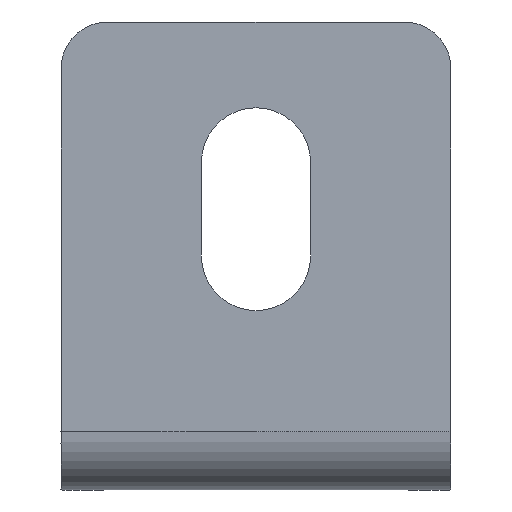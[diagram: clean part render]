
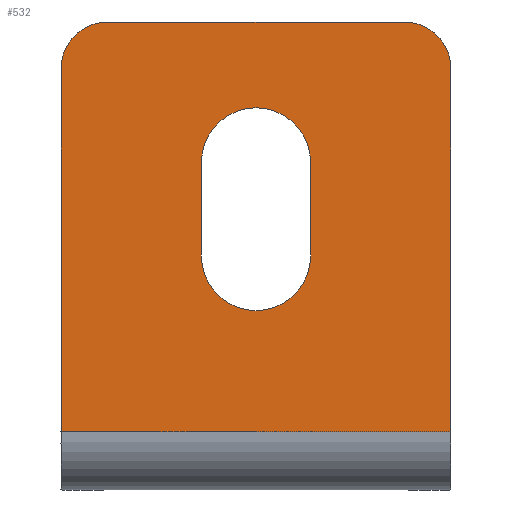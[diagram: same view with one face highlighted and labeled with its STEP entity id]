
A CAD part, front view. The second image highlights one B-rep face of the part: STEP entity #532.
In plain terms, the highlighted planar face has unit normal (0, -1, 0).
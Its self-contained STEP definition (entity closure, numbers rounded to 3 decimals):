
#21 = AXIS2_PLACEMENT_3D ( 'NONE', #605, #606, #607 ) ;
#24 = AXIS2_PLACEMENT_3D ( 'NONE', #621, #622, #623 ) ;
#33 = AXIS2_PLACEMENT_3D ( 'NONE', #689, #690, #691 ) ;
#34 = AXIS2_PLACEMENT_3D ( 'NONE', #694, #695, #696 ) ;
#35 = AXIS2_PLACEMENT_3D ( 'NONE', #699, #700, #701 ) ;
#36 = AXIS2_PLACEMENT_3D ( 'NONE', #704, #705, #706 ) ;
#85 = LINE ( 'NONE', #683, #88 ) ;
#88 = VECTOR ( 'NONE', #684, 1000. ) ;
#89 = CIRCLE ( 'NONE', #33, 3.5 ) ;
#91 = LINE ( 'NONE', #676, #93 ) ;
#92 = CIRCLE ( 'NONE', #34, 3.5 ) ;
#93 = VECTOR ( 'NONE', #677, 1000. ) ;
#94 = LINE ( 'NONE', #687, #96 ) ;
#95 = CIRCLE ( 'NONE', #35, 3. ) ;
#96 = VECTOR ( 'NONE', #688, 1000. ) ;
#97 = LINE ( 'NONE', #692, #99 ) ;
#98 = LINE ( 'NONE', #702, #101 ) ;
#99 = VECTOR ( 'NONE', #693, 1000. ) ;
#100 = CIRCLE ( 'NONE', #36, 3. ) ;
#101 = VECTOR ( 'NONE', #703, 1000. ) ;
#193 = EDGE_LOOP ( 'NONE', ( #293, #294, #295, #296, #297 ) ) ;
#219 = EDGE_LOOP ( 'NONE', ( #298, #299, #300, #301, #302, #303 ) ) ;
#227 = VERTEX_POINT ( 'NONE', #412 ) ;
#233 = VERTEX_POINT ( 'NONE', #398 ) ;
#234 = VERTEX_POINT ( 'NONE', #444 ) ;
#235 = VERTEX_POINT ( 'NONE', #408 ) ;
#237 = VERTEX_POINT ( 'NONE', #430 ) ;
#238 = VERTEX_POINT ( 'NONE', #470 ) ;
#240 = VERTEX_POINT ( 'NONE', #472 ) ;
#245 = VERTEX_POINT ( 'NONE', #477 ) ;
#250 = VERTEX_POINT ( 'NONE', #482 ) ;
#254 = VERTEX_POINT ( 'NONE', #486 ) ;
#258 = VERTEX_POINT ( 'NONE', #490 ) ;
#293 = ORIENTED_EDGE ( 'NONE', *, *, #828, .T. ) ;
#294 = ORIENTED_EDGE ( 'NONE', *, *, #799, .T. ) ;
#295 = ORIENTED_EDGE ( 'NONE', *, *, #829, .T. ) ;
#296 = ORIENTED_EDGE ( 'NONE', *, *, #830, .T. ) ;
#297 = ORIENTED_EDGE ( 'NONE', *, *, #831, .T. ) ;
#298 = ORIENTED_EDGE ( 'NONE', *, *, #826, .T. ) ;
#299 = ORIENTED_EDGE ( 'NONE', *, *, #832, .T. ) ;
#300 = ORIENTED_EDGE ( 'NONE', *, *, #833, .F. ) ;
#301 = ORIENTED_EDGE ( 'NONE', *, *, #834, .F. ) ;
#302 = ORIENTED_EDGE ( 'NONE', *, *, #808, .T. ) ;
#303 = ORIENTED_EDGE ( 'NONE', *, *, #835, .T. ) ;
#398 = CARTESIAN_POINT ( 'NONE',  ( 3.5, 0., 21. ) ) ;
#408 = CARTESIAN_POINT ( 'NONE',  ( -3.5, 0., 21. ) ) ;
#412 = CARTESIAN_POINT ( 'NONE',  ( 12.5, 0., 27. ) ) ;
#430 = CARTESIAN_POINT ( 'NONE',  ( -12.5, 0., 27. ) ) ;
#444 = CARTESIAN_POINT ( 'NONE',  ( 9.5, 0., 30. ) ) ;
#470 = CARTESIAN_POINT ( 'NONE',  ( 12.5, 0., 3.737 ) ) ;
#472 = CARTESIAN_POINT ( 'NONE',  ( 3.5, 0., 15. ) ) ;
#477 = CARTESIAN_POINT ( 'NONE',  ( -12.5, 0., 3.737 ) ) ;
#482 = CARTESIAN_POINT ( 'NONE',  ( -3.5, 0., 15. ) ) ;
#486 = CARTESIAN_POINT ( 'NONE',  ( -9.5, 0., 30. ) ) ;
#490 = CARTESIAN_POINT ( 'NONE',  ( 0., 0., 24.5 ) ) ;
#516 = PLANE ( 'NONE',  #21 ) ;
#532 = ADVANCED_FACE ( 'NONE', ( #574, #589 ), #516, .T. ) ;
#542 = LINE ( 'NONE', #640, #545 ) ;
#545 = VECTOR ( 'NONE', #641, 1000. ) ;
#574 = FACE_BOUND ( 'NONE', #193, .T. ) ;
#589 = FACE_OUTER_BOUND ( 'NONE', #219, .T. ) ;
#594 = CIRCLE ( 'NONE', #24, 3.5 ) ;
#605 = CARTESIAN_POINT ( 'NONE',  ( 12.5, 0., 0. ) ) ;
#606 = DIRECTION ( 'NONE',  ( 0., -1., 0. ) ) ;
#607 = DIRECTION ( 'NONE',  ( 0., 0., -1. ) ) ;
#621 = CARTESIAN_POINT ( 'NONE',  ( 0., 0., 21. ) ) ;
#622 = DIRECTION ( 'NONE',  ( 0., 1., 0. ) ) ;
#623 = DIRECTION ( 'NONE',  ( 0., 0., -1. ) ) ;
#640 = CARTESIAN_POINT ( 'NONE',  ( 12.5, 0., 0. ) ) ;
#641 = DIRECTION ( 'NONE',  ( 0., 0., 1. ) ) ;
#676 = CARTESIAN_POINT ( 'NONE',  ( 3.5, 0., 21. ) ) ;
#677 = DIRECTION ( 'NONE',  ( 0., 0., -1. ) ) ;
#683 = CARTESIAN_POINT ( 'NONE',  ( 12.5, 0., 30. ) ) ;
#684 = DIRECTION ( 'NONE',  ( -1., 0., 0. ) ) ;
#687 = CARTESIAN_POINT ( 'NONE',  ( -3.5, 0., 21. ) ) ;
#688 = DIRECTION ( 'NONE',  ( 0., 0., 1. ) ) ;
#689 = CARTESIAN_POINT ( 'NONE',  ( 0., 0., 21. ) ) ;
#690 = DIRECTION ( 'NONE',  ( 0., 1., 0. ) ) ;
#691 = DIRECTION ( 'NONE',  ( 0., 0., -1. ) ) ;
#692 = CARTESIAN_POINT ( 'NONE',  ( -12.5, 0., 0. ) ) ;
#693 = DIRECTION ( 'NONE',  ( 0., 0., 1. ) ) ;
#694 = CARTESIAN_POINT ( 'NONE',  ( 0., 0., 15. ) ) ;
#695 = DIRECTION ( 'NONE',  ( 0., 1., 0. ) ) ;
#696 = DIRECTION ( 'NONE',  ( 0., 0., -1. ) ) ;
#699 = CARTESIAN_POINT ( 'NONE',  ( -9.5, 0., 27. ) ) ;
#700 = DIRECTION ( 'NONE',  ( 0., -1., 0. ) ) ;
#701 = DIRECTION ( 'NONE',  ( 0., 0., -1. ) ) ;
#702 = CARTESIAN_POINT ( 'NONE',  ( 12.5, 0., 3.737 ) ) ;
#703 = DIRECTION ( 'NONE',  ( -1., 0., 0. ) ) ;
#704 = CARTESIAN_POINT ( 'NONE',  ( 9.5, 0., 27. ) ) ;
#705 = DIRECTION ( 'NONE',  ( 0., -1., 0. ) ) ;
#706 = DIRECTION ( 'NONE',  ( 0., 0., -1. ) ) ;
#799 = EDGE_CURVE ( 'NONE', #258, #233, #594, .T. ) ;
#808 = EDGE_CURVE ( 'NONE', #238, #227, #542, .T. ) ;
#826 = EDGE_CURVE ( 'NONE', #234, #254, #85, .T. ) ;
#828 = EDGE_CURVE ( 'NONE', #235, #258, #89, .T. ) ;
#829 = EDGE_CURVE ( 'NONE', #233, #240, #91, .T. ) ;
#830 = EDGE_CURVE ( 'NONE', #240, #250, #92, .T. ) ;
#831 = EDGE_CURVE ( 'NONE', #250, #235, #94, .T. ) ;
#832 = EDGE_CURVE ( 'NONE', #254, #237, #95, .T. ) ;
#833 = EDGE_CURVE ( 'NONE', #245, #237, #97, .T. ) ;
#834 = EDGE_CURVE ( 'NONE', #238, #245, #98, .T. ) ;
#835 = EDGE_CURVE ( 'NONE', #227, #234, #100, .T. ) ;
